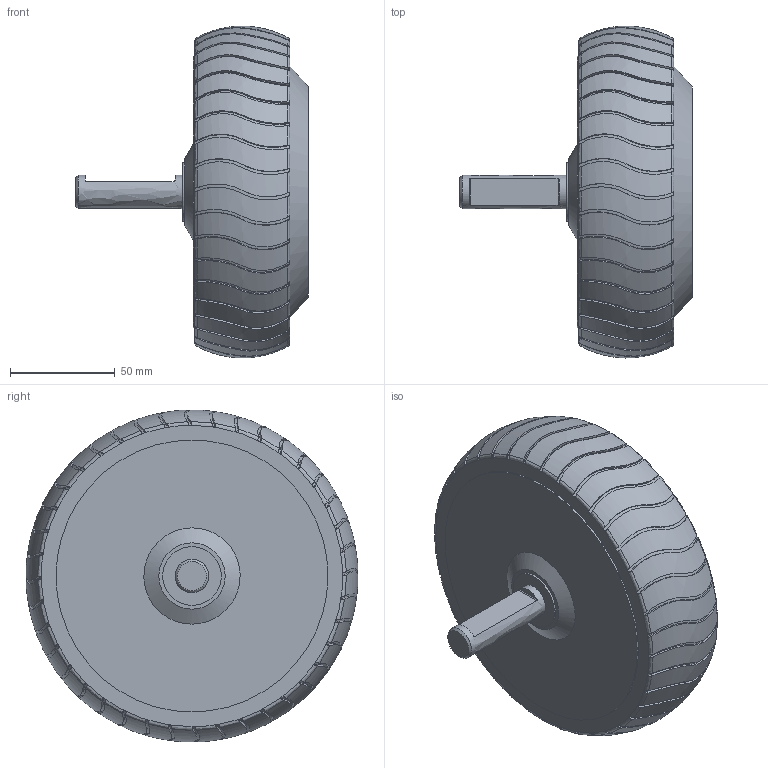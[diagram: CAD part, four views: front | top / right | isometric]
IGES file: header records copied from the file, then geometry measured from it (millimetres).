
Global section: file name: Motor, BLDC, Hoverboard Wheel, 6.5in; native system: Autodesk Inventor 2018; preprocessor: unknown; author: Kent; date: 20180219.143207; units: millimetre
Bounding box: 111 x 158.74 x 158.74 mm (x, y, z)
Volume: 958065.8 mm3; surface area: 65287.4 mm2
Topology: 1 solids, 1 shells, 301 faces, 882 edges, 591 vertices
Faces by surface type: bspline 301
